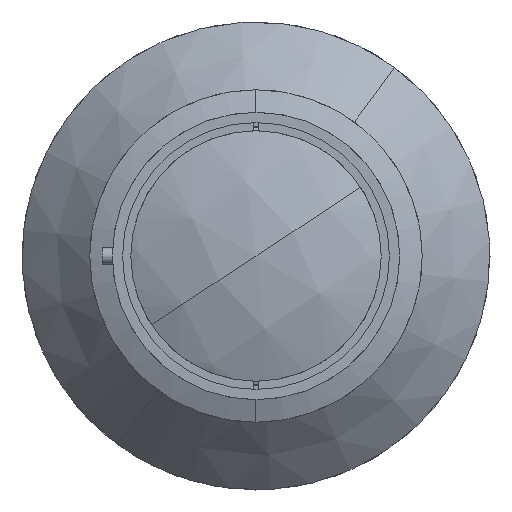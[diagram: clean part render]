
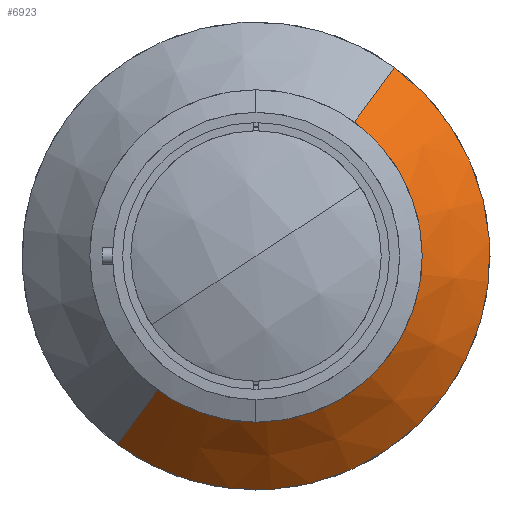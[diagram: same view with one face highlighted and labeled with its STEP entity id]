
A CAD part, left-side view. The second image highlights one B-rep face of the part: STEP entity #6923.
In plain terms, the highlighted conical face has half-angle 45 degrees and reference radius 57 mm.
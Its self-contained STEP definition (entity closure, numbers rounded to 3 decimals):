
#570 = LINE ( 'NONE', #5240, #5870 ) ;
#583 = VERTEX_POINT ( 'NONE', #6188 ) ;
#585 = FACE_OUTER_BOUND ( 'NONE', #3237, .T. ) ;
#602 = ORIENTED_EDGE ( 'NONE', *, *, #3966, .T. ) ;
#995 = ORIENTED_EDGE ( 'NONE', *, *, #5282, .F. ) ;
#1319 = EDGE_CURVE ( 'NONE', #4095, #1990, #6101, .T. ) ;
#1567 = DIRECTION ( 'NONE',  ( -1., 0., 0. ) ) ;
#1990 = VERTEX_POINT ( 'NONE', #4527 ) ;
#2147 = CIRCLE ( 'NONE', #8658, 40.5 ) ;
#2355 = DIRECTION ( 'NONE',  ( -1., 0., 0. ) ) ;
#2477 = VECTOR ( 'NONE', #8237, 1000. ) ;
#2493 = DIRECTION ( 'NONE',  ( 0.707, 0.419, -0.57 ) ) ;
#2762 = CARTESIAN_POINT ( 'NONE',  ( 209.866, -33.763, 45.924 ) ) ;
#3237 = EDGE_LOOP ( 'NONE', ( #995, #602, #5174, #4277 ) ) ;
#3600 = DIRECTION ( 'NONE',  ( 0., -0.592, 0.806 ) ) ;
#3966 = EDGE_CURVE ( 'NONE', #583, #4067, #570, .T. ) ;
#4067 = VERTEX_POINT ( 'NONE', #8897 ) ;
#4095 = VERTEX_POINT ( 'NONE', #7554 ) ;
#4277 = ORIENTED_EDGE ( 'NONE', *, *, #1319, .F. ) ;
#4415 = AXIS2_PLACEMENT_3D ( 'NONE', #6359, #7053, #3600 ) ;
#4527 = CARTESIAN_POINT ( 'NONE',  ( 209.866, -33.763, 45.924 ) ) ;
#5174 = ORIENTED_EDGE ( 'NONE', *, *, #6297, .T. ) ;
#5240 = CARTESIAN_POINT ( 'NONE',  ( 209.866, 33.763, -45.924 ) ) ;
#5282 = EDGE_CURVE ( 'NONE', #583, #4095, #2147, .T. ) ;
#5458 = CIRCLE ( 'NONE', #8611, 57. ) ;
#5674 = CONICAL_SURFACE ( 'NONE', #4415, 57., 0.785 ) ;
#5693 = CARTESIAN_POINT ( 'NONE',  ( 209.866, 0., 0. ) ) ;
#5870 = VECTOR ( 'NONE', #2493, 1000. ) ;
#6101 = LINE ( 'NONE', #2762, #2477 ) ;
#6188 = CARTESIAN_POINT ( 'NONE',  ( 193.366, 23.99, -32.63 ) ) ;
#6297 = EDGE_CURVE ( 'NONE', #4067, #1990, #5458, .T. ) ;
#6359 = CARTESIAN_POINT ( 'NONE',  ( 209.866, 0., 0. ) ) ;
#6376 = DIRECTION ( 'NONE',  ( 0., 0.592, -0.806 ) ) ;
#6467 = CARTESIAN_POINT ( 'NONE',  ( 193.366, 0., 0. ) ) ;
#6923 = ADVANCED_FACE ( 'NONE', ( #585 ), #5674, .T. ) ;
#7053 = DIRECTION ( 'NONE',  ( 1., 0., 0. ) ) ;
#7165 = DIRECTION ( 'NONE',  ( 0., 0.592, -0.806 ) ) ;
#7554 = CARTESIAN_POINT ( 'NONE',  ( 193.366, -23.99, 32.63 ) ) ;
#8237 = DIRECTION ( 'NONE',  ( 0.707, -0.419, 0.57 ) ) ;
#8611 = AXIS2_PLACEMENT_3D ( 'NONE', #5693, #1567, #6376 ) ;
#8658 = AXIS2_PLACEMENT_3D ( 'NONE', #6467, #2355, #7165 ) ;
#8897 = CARTESIAN_POINT ( 'NONE',  ( 209.866, 33.763, -45.924 ) ) ;
